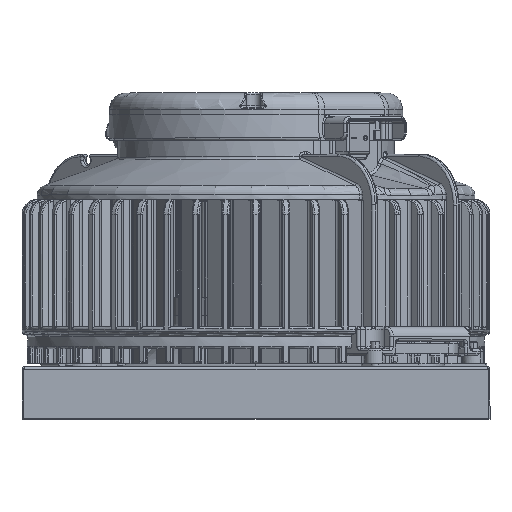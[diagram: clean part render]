
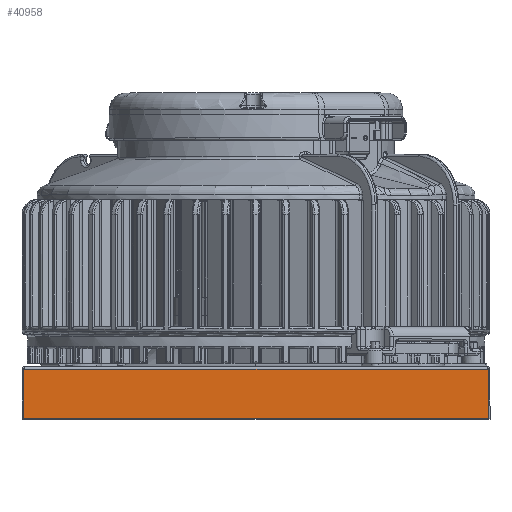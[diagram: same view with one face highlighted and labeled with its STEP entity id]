
A CAD part, top view. The second image highlights one B-rep face of the part: STEP entity #40958.
In plain terms, the highlighted planar face has unit normal (0, 0, 1).
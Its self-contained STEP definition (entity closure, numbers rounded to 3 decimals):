
#8238 = DIRECTION ( 'NONE',  ( 0., 0., -1. ) ) ;
#8683 = CARTESIAN_POINT ( 'NONE',  ( 159.4, -34.9, 160.5 ) ) ;
#11657 = VECTOR ( 'NONE', #71185, 1000. ) ;
#15894 = CARTESIAN_POINT ( 'NONE',  ( -159.4, 0., 160.5 ) ) ;
#18144 = CARTESIAN_POINT ( 'NONE',  ( 160.5, -34.9, 160.5 ) ) ;
#19906 = FACE_OUTER_BOUND ( 'NONE', #102419, .T. ) ;
#23677 = VERTEX_POINT ( 'NONE', #8683 ) ;
#23896 = CARTESIAN_POINT ( 'NONE',  ( 160.5, -1.3, 160.5 ) ) ;
#27788 = CARTESIAN_POINT ( 'NONE',  ( 159.4, -1.3, 160.5 ) ) ;
#30078 = DIRECTION ( 'NONE',  ( 0., -1., 0. ) ) ;
#32567 = VERTEX_POINT ( 'NONE', #98045 ) ;
#33198 = DIRECTION ( 'NONE',  ( 1., 0., 0. ) ) ;
#33581 = VECTOR ( 'NONE', #33198, 1000. ) ;
#36029 = VERTEX_POINT ( 'NONE', #27788 ) ;
#37582 = EDGE_CURVE ( 'NONE', #38137, #32567, #42729, .T. ) ;
#38137 = VERTEX_POINT ( 'NONE', #50952 ) ;
#40958 = ADVANCED_FACE ( 'NONE', ( #19906 ), #81116, .F. ) ;
#42729 = LINE ( 'NONE', #15894, #86287 ) ;
#46323 = EDGE_CURVE ( 'NONE', #36029, #23677, #75495, .T. ) ;
#50952 = CARTESIAN_POINT ( 'NONE',  ( -159.4, -1.3, 160.5 ) ) ;
#52842 = EDGE_CURVE ( 'NONE', #38137, #36029, #68149, .T. ) ;
#53711 = CARTESIAN_POINT ( 'NONE',  ( 160.5, 0., 160.5 ) ) ;
#56299 = CARTESIAN_POINT ( 'NONE',  ( 159.4, 0., 160.5 ) ) ;
#57258 = ORIENTED_EDGE ( 'NONE', *, *, #37582, .T. ) ;
#68149 = LINE ( 'NONE', #23896, #33581 ) ;
#71185 = DIRECTION ( 'NONE',  ( -1., 0., 0. ) ) ;
#71195 = DIRECTION ( 'NONE',  ( 0., -1., 0. ) ) ;
#75495 = LINE ( 'NONE', #56299, #84772 ) ;
#79042 = ORIENTED_EDGE ( 'NONE', *, *, #52842, .F. ) ;
#81105 = LINE ( 'NONE', #18144, #11657 ) ;
#81116 = PLANE ( 'NONE',  #100964 ) ;
#83652 = DIRECTION ( 'NONE',  ( 0., -1., 0. ) ) ;
#84772 = VECTOR ( 'NONE', #83652, 1000. ) ;
#86287 = VECTOR ( 'NONE', #30078, 1000. ) ;
#86393 = EDGE_CURVE ( 'NONE', #23677, #32567, #81105, .T. ) ;
#92805 = ORIENTED_EDGE ( 'NONE', *, *, #86393, .F. ) ;
#93099 = ORIENTED_EDGE ( 'NONE', *, *, #46323, .F. ) ;
#98045 = CARTESIAN_POINT ( 'NONE',  ( -159.4, -34.9, 160.5 ) ) ;
#100964 = AXIS2_PLACEMENT_3D ( 'NONE', #53711, #8238, #71195 ) ;
#102419 = EDGE_LOOP ( 'NONE', ( #79042, #57258, #92805, #93099 ) ) ;
